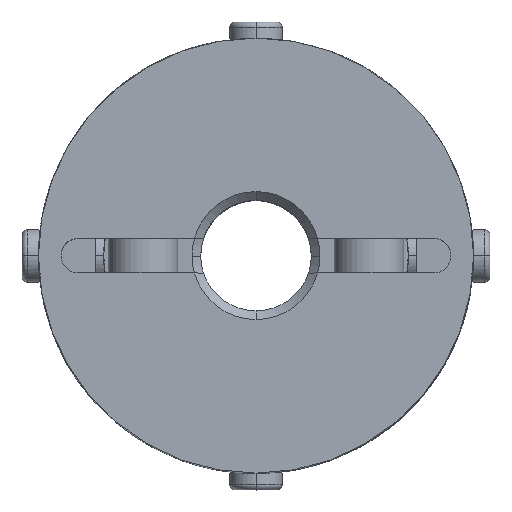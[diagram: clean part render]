
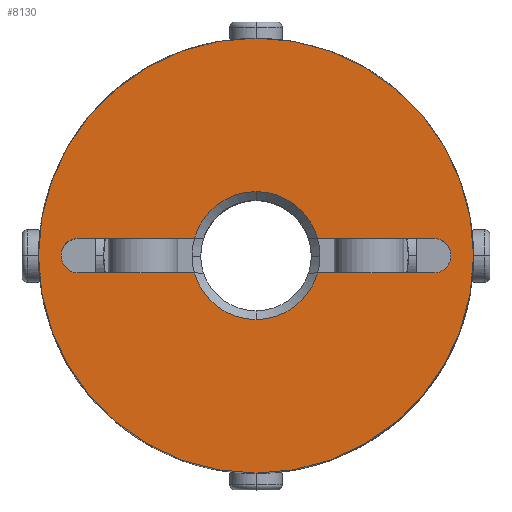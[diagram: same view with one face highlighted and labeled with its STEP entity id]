
A CAD part, top view. The second image highlights one B-rep face of the part: STEP entity #8130.
In plain terms, the highlighted planar face has unit normal (0, 0, 1).
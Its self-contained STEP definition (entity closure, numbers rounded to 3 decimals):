
#885=CARTESIAN_POINT('',(0.,12.5,13.5));
#886=VERTEX_POINT('',#885);
#893=CARTESIAN_POINT('',(0.,-12.5,13.5));
#894=VERTEX_POINT('',#893);
#895=CARTESIAN_POINT('',(0.,0.0,13.5));
#896=DIRECTION('',(0.0,0.0,-1.0));
#897=DIRECTION('',(0.0,-1.0,0.0));
#898=AXIS2_PLACEMENT_3D('',#895,#896,#897);
#899=CIRCLE('',#898,12.5);
#900=EDGE_CURVE('',#886,#894,#899,.T.);
#1153=CARTESIAN_POINT('',(10.907,0.707,13.5));
#1154=VERTEX_POINT('',#1153);
#1170=CARTESIAN_POINT('',(10.2,-1.,13.5));
#1171=VERTEX_POINT('',#1170);
#1178=CARTESIAN_POINT('',(10.2,0.,13.5));
#1179=DIRECTION('',(0.0,0.0,1.0));
#1180=DIRECTION('',(0.707,-0.707,0.0));
#1181=AXIS2_PLACEMENT_3D('',#1178,#1179,#1180);
#1182=CIRCLE('',#1181,1.0);
#1183=EDGE_CURVE('',#1171,#1154,#1182,.T.);
#1195=CARTESIAN_POINT('',(-10.907,-0.707,13.5));
#1196=VERTEX_POINT('',#1195);
#1212=CARTESIAN_POINT('',(-10.2,1.,13.5));
#1213=VERTEX_POINT('',#1212);
#1220=CARTESIAN_POINT('',(-10.2,0.,13.5));
#1221=DIRECTION('',(0.0,0.0,1.0));
#1222=DIRECTION('',(-0.707,0.707,0.0));
#1223=AXIS2_PLACEMENT_3D('',#1220,#1221,#1222);
#1224=CIRCLE('',#1223,1.0);
#1225=EDGE_CURVE('',#1213,#1196,#1224,.T.);
#1235=CARTESIAN_POINT('',(0.,3.675,13.5));
#1236=VERTEX_POINT('',#1235);
#1244=CARTESIAN_POINT('',(3.536,1.,13.5));
#1245=VERTEX_POINT('',#1244);
#1259=CARTESIAN_POINT('',(0.,0.0,13.5));
#1260=DIRECTION('',(0.0,0.0,1.0));
#1261=DIRECTION('',(0.0,1.0,0.0));
#1262=AXIS2_PLACEMENT_3D('',#1259,#1260,#1261);
#1263=CIRCLE('',#1262,3.675);
#1264=EDGE_CURVE('',#1245,#1236,#1263,.T.);
#1276=CARTESIAN_POINT('',(0.,-3.675,13.5));
#1277=VERTEX_POINT('',#1276);
#1293=CARTESIAN_POINT('',(-3.536,-1.,13.5));
#1294=VERTEX_POINT('',#1293);
#1308=CARTESIAN_POINT('',(0.,0.0,13.5));
#1309=DIRECTION('',(0.0,0.0,1.0));
#1310=DIRECTION('',(0.0,-1.0,0.0));
#1311=AXIS2_PLACEMENT_3D('',#1308,#1309,#1310);
#1312=CIRCLE('',#1311,3.675);
#1313=EDGE_CURVE('',#1294,#1277,#1312,.T.);
#7922=CARTESIAN_POINT('',(-10.2,-1.,13.5));
#7923=VERTEX_POINT('',#7922);
#7930=CARTESIAN_POINT('',(-3.536,-1.,13.5));
#7931=DIRECTION('',(-1.0,0.0,0.0));
#7932=VECTOR('',#7931,6.664);
#7933=LINE('',#7930,#7932);
#7934=EDGE_CURVE('',#1294,#7923,#7933,.T.);
#7991=CARTESIAN_POINT('',(-3.536,1.,13.5));
#7992=VERTEX_POINT('',#7991);
#8006=CARTESIAN_POINT('',(-10.2,1.,13.5));
#8007=DIRECTION('',(1.0,0.0,0.0));
#8008=VECTOR('',#8007,6.664);
#8009=LINE('',#8006,#8008);
#8010=EDGE_CURVE('',#1213,#7992,#8009,.T.);
#8027=CARTESIAN_POINT('',(3.536,-1.,13.5));
#8028=VERTEX_POINT('',#8027);
#8029=CARTESIAN_POINT('',(0.,0.0,13.5));
#8030=DIRECTION('',(0.0,0.0,1.0));
#8031=DIRECTION('',(0.0,-1.0,0.0));
#8032=AXIS2_PLACEMENT_3D('',#8029,#8030,#8031);
#8033=CIRCLE('',#8032,3.675);
#8034=EDGE_CURVE('',#1277,#8028,#8033,.T.);
#8061=CARTESIAN_POINT('',(10.2,-1.,13.5));
#8062=DIRECTION('',(-1.0,0.0,0.0));
#8063=VECTOR('',#8062,6.664);
#8064=LINE('',#8061,#8063);
#8065=EDGE_CURVE('',#1171,#8028,#8064,.T.);
#8076=CARTESIAN_POINT('',(0.,-1.136,13.5));
#8077=DIRECTION('',(0.0,0.0,1.0));
#8078=DIRECTION('',(0.0,-1.0,0.0));
#8079=AXIS2_PLACEMENT_3D('',#8076,#8077,#8078);
#8080=PLANE('',#8079);
#8081=CARTESIAN_POINT('',(0.,0.0,13.5));
#8082=DIRECTION('',(0.0,0.0,-1.0));
#8083=DIRECTION('',(0.0,-1.0,0.0));
#8084=AXIS2_PLACEMENT_3D('',#8081,#8082,#8083);
#8085=CIRCLE('',#8084,12.5);
#8086=EDGE_CURVE('',#894,#886,#8085,.T.);
#8087=ORIENTED_EDGE('',*,*,#8086,.F.);
#8088=ORIENTED_EDGE('',*,*,#900,.F.);
#8089=EDGE_LOOP('',(#8087,#8088));
#8090=FACE_OUTER_BOUND('',#8089,.T.);
#8091=ORIENTED_EDGE('',*,*,#1313,.F.);
#8092=ORIENTED_EDGE('',*,*,#7934,.T.);
#8093=CARTESIAN_POINT('',(-10.2,0.,13.5));
#8094=DIRECTION('',(0.0,0.0,1.0));
#8095=DIRECTION('',(-0.707,0.707,0.0));
#8096=AXIS2_PLACEMENT_3D('',#8093,#8094,#8095);
#8097=CIRCLE('',#8096,1.0);
#8098=EDGE_CURVE('',#1196,#7923,#8097,.T.);
#8099=ORIENTED_EDGE('',*,*,#8098,.F.);
#8100=ORIENTED_EDGE('',*,*,#1225,.F.);
#8101=ORIENTED_EDGE('',*,*,#8010,.T.);
#8102=CARTESIAN_POINT('',(0.,0.0,13.5));
#8103=DIRECTION('',(0.0,0.0,1.0));
#8104=DIRECTION('',(0.0,1.0,0.0));
#8105=AXIS2_PLACEMENT_3D('',#8102,#8103,#8104);
#8106=CIRCLE('',#8105,3.675);
#8107=EDGE_CURVE('',#1236,#7992,#8106,.T.);
#8108=ORIENTED_EDGE('',*,*,#8107,.F.);
#8109=ORIENTED_EDGE('',*,*,#1264,.F.);
#8110=CARTESIAN_POINT('',(10.2,1.,13.5));
#8111=VERTEX_POINT('',#8110);
#8112=CARTESIAN_POINT('',(3.536,1.,13.5));
#8113=DIRECTION('',(1.0,0.0,0.0));
#8114=VECTOR('',#8113,6.664);
#8115=LINE('',#8112,#8114);
#8116=EDGE_CURVE('',#1245,#8111,#8115,.T.);
#8117=ORIENTED_EDGE('',*,*,#8116,.T.);
#8118=CARTESIAN_POINT('',(10.2,0.,13.5));
#8119=DIRECTION('',(0.0,0.0,1.0));
#8120=DIRECTION('',(0.707,-0.707,0.0));
#8121=AXIS2_PLACEMENT_3D('',#8118,#8119,#8120);
#8122=CIRCLE('',#8121,1.0);
#8123=EDGE_CURVE('',#1154,#8111,#8122,.T.);
#8124=ORIENTED_EDGE('',*,*,#8123,.F.);
#8125=ORIENTED_EDGE('',*,*,#1183,.F.);
#8126=ORIENTED_EDGE('',*,*,#8065,.T.);
#8127=ORIENTED_EDGE('',*,*,#8034,.F.);
#8128=EDGE_LOOP('',(#8091,#8092,#8099,#8100,#8101,#8108,#8109,#8117,#8124,#8125,#8126,#8127));
#8129=FACE_BOUND('',#8128,.T.);
#8130=ADVANCED_FACE('',(#8090,#8129),#8080,.T.);
